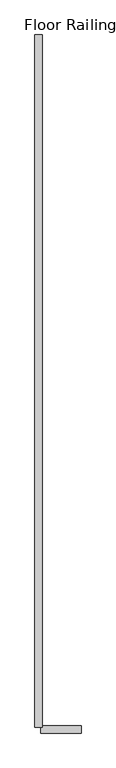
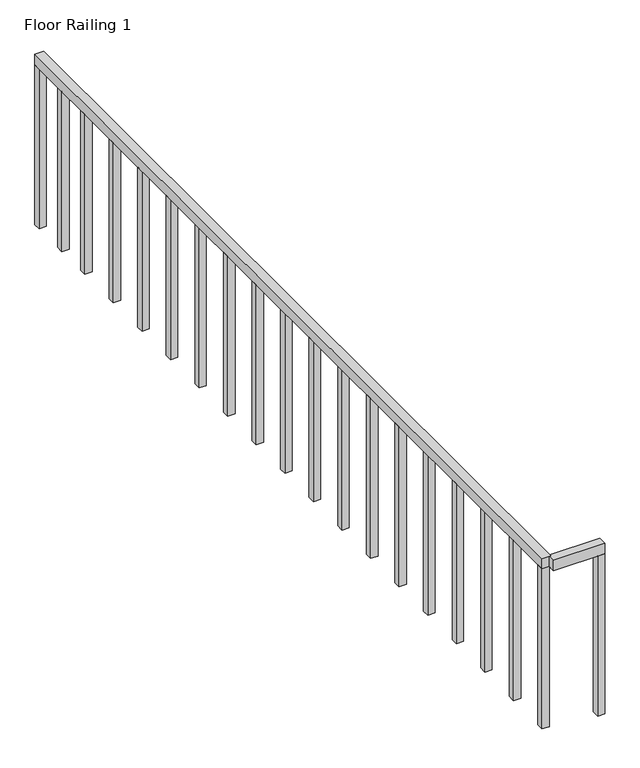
"""IFC4 building model written with IfcOpenShell, lengths in millimetres: railing geometry, Floor Railing 1."""

import ifcopenshell
import ifcopenshell.guid

model = None  # the IFC model being written
_history = None  # IfcOwnerHistory: only IFC2X3 demands one
_inside = {}  # id of a spatial element -> (the spatial element, [elements in it])
_under = {}  # id of a project, library or spatial element -> (it, [spatial elements below it])
_declared = {}  # id of a project -> (the project, [libraries it declares])
_typed = {}  # id of a type object -> (the type object, [elements of that type])
_made_of = {}  # id of a material, layer set ... -> (it, [elements and type objects made of it])


def new_model(schema):
    """Start an empty IFC model of exactly this schema.

    Asked for "IFC4X3", IfcOpenShell would pick the latest addendum, in which some entities
    have other attributes; the version numbers below select the first issue.
    IFC2X3 requires an IfcOwnerHistory on every rooted entity: one is made here for all.
    """
    global model, _history
    if schema == "IFC4X3":
        model = ifcopenshell.file(schema_version=(4, 3, 0, 0))
    else:
        model = ifcopenshell.file(schema=schema)
    _inside.clear()
    _under.clear()
    _declared.clear()
    _typed.clear()
    _made_of.clear()
    _history = None
    if model.schema == "IFC2X3":
        org = make("IfcOrganization", Name="unknown")
        user = make(
            "IfcPersonAndOrganization",
            ThePerson=make("IfcPerson", FamilyName="unknown"),
            TheOrganization=org,
        )
        app = make(
            "IfcApplication",
            ApplicationDeveloper=org,
            Version="unknown",
            ApplicationFullName="unknown",
            ApplicationIdentifier="unknown",
        )
        _history = make(
            "IfcOwnerHistory",
            OwningUser=user,
            OwningApplication=app,
            ChangeAction="ADDED",
            CreationDate=0,
        )
    return model


def make(cls, **values):
    """One entity of the class cls with the attributes given. An attribute that is None is left unset."""
    return model.create_entity(
        cls, **{name: value for name, value in values.items() if value is not None}
    )


def rooted(cls, **values):
    """An entity with a GlobalId (a new one), such as an element, a storey or a relation."""
    return make(cls, GlobalId=ifcopenshell.guid.new(), OwnerHistory=_history, **values)


def si_unit(unit_type, name, prefix=None):
    """IfcSIUnit, for example si_unit("LENGTHUNIT", "METRE", prefix="MILLI")."""
    return make("IfcSIUnit", UnitType=unit_type, Prefix=prefix, Name=name)


def assignment(units):
    """IfcUnitAssignment: the units of a project."""
    return None if units is None else make("IfcUnitAssignment", Units=units)


def point(xyz):
    """IfcCartesianPoint."""
    return None if xyz is None else make("IfcCartesianPoint", Coordinates=xyz)


def direction(xyz):
    """IfcDirection."""
    return None if xyz is None else make("IfcDirection", DirectionRatios=xyz)


def frame(location, z_axis=None, x_axis=None):
    """IfcAxis2Placement3D, a coordinate frame: its origin and axes. An axis left out is left unset."""
    return make(
        "IfcAxis2Placement3D",
        Location=point(location),
        Axis=direction(z_axis),
        RefDirection=direction(x_axis),
    )


def origin():
    """The frame at (0, 0, 0) with its axes left unset."""
    return frame((0.0, 0.0, 0.0))


def place(relative_to, where):
    """IfcLocalPlacement: puts the frame where relative to a parent placement (None: the world)."""
    return make(
        "IfcLocalPlacement", PlacementRelTo=relative_to, RelativePlacement=where
    )


def context(
    kind, dimensions, precision=None, world=None, true_north=None, identifier=None
):
    """IfcGeometricRepresentationContext, for example the 3D "Model" context."""
    return make(
        "IfcGeometricRepresentationContext",
        ContextIdentifier=identifier,
        ContextType=kind,
        CoordinateSpaceDimension=dimensions,
        Precision=precision,
        WorldCoordinateSystem=world,
        TrueNorth=true_north,
    )


def project(units=None, contexts=None):
    """IfcProject with its units and contexts."""
    return rooted(
        "IfcProject",
        Name="project",
        RepresentationContexts=contexts,
        UnitsInContext=assignment(units),
    )


def spatial(cls, under=None, at=None, **own):
    """A site, building, storey or space (cls), placed at a placement, below another one or the project."""
    s = rooted(cls, ObjectPlacement=at, **own)
    if under is not None:
        _under.setdefault(under.id(), (under, []))[1].append(s)
    return s


def polyline(points):
    """IfcPolyline through the points."""
    return make("IfcPolyline", Points=[point(p) for p in points])


def outline(outer, holes=None, kind="AREA"):
    """IfcArbitraryClosedProfileDef: a profile drawn as a closed curve; with holes, ...WithVoids."""
    if holes is None:
        return make("IfcArbitraryClosedProfileDef", ProfileType=kind, OuterCurve=outer)
    return make(
        "IfcArbitraryProfileDefWithVoids",
        ProfileType=kind,
        OuterCurve=outer,
        InnerCurves=holes,
    )


def extrude(swept, where, along, depth):
    """IfcExtrudedAreaSolid: the profile swept, set in the frame where, extruded along a direction by depth."""
    return make(
        "IfcExtrudedAreaSolid",
        SweptArea=swept,
        Position=where,
        ExtrudedDirection=direction(along),
        Depth=depth,
    )


def shape(context_of_items, identifier, shape_type, items):
    """IfcShapeRepresentation: the items that make up one representation, for example the "Body"."""
    return make(
        "IfcShapeRepresentation",
        ContextOfItems=context_of_items,
        RepresentationIdentifier=identifier,
        RepresentationType=shape_type,
        Items=items,
    )


def source(mapping_origin, context_of_items, identifier, shape_type, items):
    """IfcRepresentationMap: a shape defined once, which mapped items show again and again."""
    return make(
        "IfcRepresentationMap",
        MappingOrigin=mapping_origin,
        MappedRepresentation=shape(context_of_items, identifier, shape_type, items),
    )


def transform(
    local_origin,
    x_axis=None,
    y_axis=None,
    z_axis=None,
    scale=None,
    scale2=None,
    scale3=None,
    uniform=True,
):
    """IfcCartesianTransformationOperator3D, or its non-uniform kind. x_axis, y_axis, z_axis: its Axis1, 2, 3."""
    if uniform:
        return make(
            "IfcCartesianTransformationOperator3D",
            Axis1=direction(x_axis),
            Axis2=direction(y_axis),
            LocalOrigin=point(local_origin),
            Scale=scale,
            Axis3=direction(z_axis),
        )
    return make(
        "IfcCartesianTransformationOperator3DnonUniform",
        Axis1=direction(x_axis),
        Axis2=direction(y_axis),
        LocalOrigin=point(local_origin),
        Scale=scale,
        Axis3=direction(z_axis),
        Scale2=scale2,
        Scale3=scale3,
    )


def mapped(mapping_source, mapping_target):
    """IfcMappedItem: shows the shape of a source again, moved by a transform."""
    return make(
        "IfcMappedItem", MappingSource=mapping_source, MappingTarget=mapping_target
    )


def made_of(thing, what):
    """Note that an element or type object is made of a material, layer set ...; save() writes the relation."""
    if what is not None:
        _made_of.setdefault(what.id(), (what, []))[1].append(thing)
    return thing


def element(
    cls,
    number,
    at=None,
    inside=None,
    cuts=None,
    type_object=None,
    material=None,
    context=None,
    identifier="Body",
    shape_type=None,
    held_by="IfcProductDefinitionShape",
    body=None,
    shapes=None,
    **own,
):
    """One element of the class cls, such as IfcWall. Its Tag is "e" and its number.

    at: its placement. inside: the storey or other place that contains it. cuts: it is an
    opening in that element (IfcRelVoidsElement). A single representation is given by context,
    identifier, shape_type and body (its items); several are given by shapes. held_by: the class
    of the entity that holds the representations. save() writes the other relations.
    """
    e = rooted(cls, Tag="e%d" % number, ObjectPlacement=at, **own)
    if body is not None:
        shapes = [shape(context, identifier, shape_type, body)]
    if shapes is not None:
        e.Representation = make(held_by, Representations=shapes)
    if inside is not None:
        _inside.setdefault(inside.id(), (inside, []))[1].append(e)
    if cuts is not None:
        rooted(
            "IfcRelVoidsElement", RelatingBuildingElement=cuts, RelatedOpeningElement=e
        )
    if type_object is not None:
        _typed.setdefault(type_object.id(), (type_object, []))[1].append(e)
    return made_of(e, material)


def aggregate(whole, parts):
    """IfcRelAggregates: a whole, such as a stair, and the parts it consists of."""
    return rooted("IfcRelAggregates", RelatingObject=whole, RelatedObjects=parts)


def save(model, path):
    """Write the relations noted so far, then the file.

    IfcRelAggregates (storeys below a building ...), IfcRelContainedInSpatialStructure (elements
    in a storey), IfcRelDefinesByType, IfcRelAssociatesMaterial and IfcRelDeclares: one each for
    every whole, place, type object, material and project.
    """
    for whole, parts in _under.values():
        aggregate(whole, parts)
    for where, things in _inside.values():
        rooted(
            "IfcRelContainedInSpatialStructure",
            RelatedElements=things,
            RelatingStructure=where,
        )
    for kind, things in _typed.values():
        rooted("IfcRelDefinesByType", RelatedObjects=things, RelatingType=kind)
    for what, things in _made_of.values():
        rooted("IfcRelAssociatesMaterial", RelatedObjects=things, RelatingMaterial=what)
    for by, libraries in _declared.values():
        rooted("IfcRelDeclares", RelatingContext=by, RelatedDefinitions=libraries)
    model.write(path)


def floor_railing_1_846517ea(model_context):
    return source(origin(), model_context, "Body", "SweptSolid", [
        extrude(outline(polyline([(-5165.7911158, 51911.486508), (-5215.7911158, 51911.486508), (-5215.7911158, 56791.461508), (-5165.7911158, 56791.461508), (-5165.7911158, 51911.486508)])), frame((0.0, 0.0, 4244.8), z_axis=(0.0, 0.0, 1.0), x_axis=(1.0, 0.0, 0.0)), (0.0, 0.0, 1.0), 60.0),
        extrude(outline(polyline([(-5175.7911158, 56791.461508), (-5175.7911158, 56751.461508), (-5215.7911158, 56751.461508), (-5215.7911158, 56791.461508), (-5175.7911158, 56791.461508)])), frame((0.0, 0.0, 3304.8), z_axis=(0.0, 0.0, 1.0), x_axis=(1.0, 0.0, 0.0)), (0.0, 0.0, 1.0), 940.0),
        extrude(outline(polyline([(-5175.7911158, 56571.474008), (-5175.7911158, 56531.474008), (-5215.7911158, 56531.474008), (-5215.7911158, 56571.474008), (-5175.7911158, 56571.474008)])), frame((0.0, 0.0, 3304.8), z_axis=(0.0, 0.0, 1.0), x_axis=(1.0, 0.0, 0.0)), (0.0, 0.0, 1.0), 940.0),
        extrude(outline(polyline([(-5175.7911158, 56351.486508), (-5175.7911158, 56311.486508), (-5215.7911158, 56311.486508), (-5215.7911158, 56351.486508), (-5175.7911158, 56351.486508)])), frame((0.0, 0.0, 3304.8), z_axis=(0.0, 0.0, 1.0), x_axis=(1.0, 0.0, 0.0)), (0.0, 0.0, 1.0), 940.0),
        extrude(outline(polyline([(-5175.7911158, 56076.486508), (-5175.7911158, 56036.486508), (-5215.7911158, 56036.486508), (-5215.7911158, 56076.486508), (-5175.7911158, 56076.486508)])), frame((0.0, 0.0, 3304.8), z_axis=(0.0, 0.0, 1.0), x_axis=(1.0, 0.0, 0.0)), (0.0, 0.0, 1.0), 940.0),
        extrude(outline(polyline([(-5175.7911158, 55801.486508), (-5175.7911158, 55761.486508), (-5215.7911158, 55761.486508), (-5215.7911158, 55801.486508), (-5175.7911158, 55801.486508)])), frame((0.0, 0.0, 3304.8), z_axis=(0.0, 0.0, 1.0), x_axis=(1.0, 0.0, 0.0)), (0.0, 0.0, 1.0), 940.0),
        extrude(outline(polyline([(-5175.7911158, 55526.486508), (-5175.7911158, 55486.486508), (-5215.7911158, 55486.486508), (-5215.7911158, 55526.486508), (-5175.7911158, 55526.486508)])), frame((0.0, 0.0, 3304.8), z_axis=(0.0, 0.0, 1.0), x_axis=(1.0, 0.0, 0.0)), (0.0, 0.0, 1.0), 940.0),
        extrude(outline(polyline([(-5175.7911158, 55251.486508), (-5175.7911158, 55211.486508), (-5215.7911158, 55211.486508), (-5215.7911158, 55251.486508), (-5175.7911158, 55251.486508)])), frame((0.0, 0.0, 3304.8), z_axis=(0.0, 0.0, 1.0), x_axis=(1.0, 0.0, 0.0)), (0.0, 0.0, 1.0), 940.0),
        extrude(outline(polyline([(-5175.7911158, 54976.486508), (-5175.7911158, 54936.486508), (-5215.7911158, 54936.486508), (-5215.7911158, 54976.486508), (-5175.7911158, 54976.486508)])), frame((0.0, 0.0, 3304.8), z_axis=(0.0, 0.0, 1.0), x_axis=(1.0, 0.0, 0.0)), (0.0, 0.0, 1.0), 940.0),
        extrude(outline(polyline([(-5175.7911158, 54701.486508), (-5175.7911158, 54661.486508), (-5215.7911158, 54661.486508), (-5215.7911158, 54701.486508), (-5175.7911158, 54701.486508)])), frame((0.0, 0.0, 3304.8), z_axis=(0.0, 0.0, 1.0), x_axis=(1.0, 0.0, 0.0)), (0.0, 0.0, 1.0), 940.0),
        extrude(outline(polyline([(-5175.7911158, 54426.486508), (-5175.7911158, 54386.486508), (-5215.7911158, 54386.486508), (-5215.7911158, 54426.486508), (-5175.7911158, 54426.486508)])), frame((0.0, 0.0, 3304.8), z_axis=(0.0, 0.0, 1.0), x_axis=(1.0, 0.0, 0.0)), (0.0, 0.0, 1.0), 940.0),
        extrude(outline(polyline([(-5175.7911158, 54151.486508), (-5175.7911158, 54111.486508), (-5215.7911158, 54111.486508), (-5215.7911158, 54151.486508), (-5175.7911158, 54151.486508)])), frame((0.0, 0.0, 3304.8), z_axis=(0.0, 0.0, 1.0), x_axis=(1.0, 0.0, 0.0)), (0.0, 0.0, 1.0), 940.0),
        extrude(outline(polyline([(-5175.7911158, 53876.486508), (-5175.7911158, 53836.486508), (-5215.7911158, 53836.486508), (-5215.7911158, 53876.486508), (-5175.7911158, 53876.486508)])), frame((0.0, 0.0, 3304.8), z_axis=(0.0, 0.0, 1.0), x_axis=(1.0, 0.0, 0.0)), (0.0, 0.0, 1.0), 940.0),
        extrude(outline(polyline([(-5175.7911158, 53601.486508), (-5175.7911158, 53561.486508), (-5215.7911158, 53561.486508), (-5215.7911158, 53601.486508), (-5175.7911158, 53601.486508)])), frame((0.0, 0.0, 3304.8), z_axis=(0.0, 0.0, 1.0), x_axis=(1.0, 0.0, 0.0)), (0.0, 0.0, 1.0), 940.0),
        extrude(outline(polyline([(-5175.7911158, 53326.486508), (-5175.7911158, 53286.486508), (-5215.7911158, 53286.486508), (-5215.7911158, 53326.486508), (-5175.7911158, 53326.486508)])), frame((0.0, 0.0, 3304.8), z_axis=(0.0, 0.0, 1.0), x_axis=(1.0, 0.0, 0.0)), (0.0, 0.0, 1.0), 940.0),
        extrude(outline(polyline([(-5175.7911158, 53051.486508), (-5175.7911158, 53011.486508), (-5215.7911158, 53011.486508), (-5215.7911158, 53051.486508), (-5175.7911158, 53051.486508)])), frame((0.0, 0.0, 3304.8), z_axis=(0.0, 0.0, 1.0), x_axis=(1.0, 0.0, 0.0)), (0.0, 0.0, 1.0), 940.0),
        extrude(outline(polyline([(-5175.7911158, 52776.486508), (-5175.7911158, 52736.486508), (-5215.7911158, 52736.486508), (-5215.7911158, 52776.486508), (-5175.7911158, 52776.486508)])), frame((0.0, 0.0, 3304.8), z_axis=(0.0, 0.0, 1.0), x_axis=(1.0, 0.0, 0.0)), (0.0, 0.0, 1.0), 940.0),
        extrude(outline(polyline([(-5175.7911158, 52501.486508), (-5175.7911158, 52461.486508), (-5215.7911158, 52461.486508), (-5215.7911158, 52501.486508), (-5175.7911158, 52501.486508)])), frame((0.0, 0.0, 3304.8), z_axis=(0.0, 0.0, 1.0), x_axis=(1.0, 0.0, 0.0)), (0.0, 0.0, 1.0), 940.0),
        extrude(outline(polyline([(-5175.7911158, 52226.486508), (-5175.7911158, 52186.486508), (-5215.7911158, 52186.486508), (-5215.7911158, 52226.486508), (-5175.7911158, 52226.486508)])), frame((0.0, 0.0, 3304.8), z_axis=(0.0, 0.0, 1.0), x_axis=(1.0, 0.0, 0.0)), (0.0, 0.0, 1.0), 940.0),
        extrude(outline(polyline([(-5175.7911158, 51951.486508), (-5175.7911158, 51911.486508), (-5215.7911158, 51911.486508), (-5215.7911158, 51951.486508), (-5175.7911158, 51951.486508)])), frame((0.0, 0.0, 3304.8), z_axis=(0.0, 0.0, 1.0), x_axis=(1.0, 0.0, 0.0)), (0.0, 0.0, 1.0), 940.0),
        extrude(outline(polyline([(-4890.5747339, 51921.486508), (-4890.5747339, 51871.486508), (-5175.7911158, 51871.486508), (-5175.7911158, 51921.486508), (-4890.5747339, 51921.486508)])), frame((0.0, 0.0, 4244.8), z_axis=(0.0, 0.0, 1.0), x_axis=(1.0, 0.0, 0.0)), (0.0, 0.0, 1.0), 60.0),
        extrude(outline(polyline([(-4930.5747339, 51911.486508), (-4890.5747339, 51911.486508), (-4890.5747339, 51871.486508), (-4930.5747339, 51871.486508), (-4930.5747339, 51911.486508)])), frame((0.0, 0.0, 3304.8), z_axis=(0.0, 0.0, 1.0), x_axis=(1.0, 0.0, 0.0)), (0.0, 0.0, 1.0), 940.0),
    ])


if __name__ == "__main__":
    model = new_model("IFC4")
    model_context = context("Model", 3, world=origin())
    ifc_project = project(units=[si_unit("LENGTHUNIT", "METRE", prefix="MILLI")], contexts=[model_context])
    site = spatial("IfcSite", under=ifc_project)
    building = spatial("IfcBuilding", under=site)
    placement = place(None, origin())
    floor_railing_1_shape = floor_railing_1_846517ea(model_context)
    element("IfcRailing", 1, ObjectType="Floor Railing 1", at=placement, inside=building, context=model_context, shape_type="MappedRepresentation", body=[
        mapped(floor_railing_1_shape, transform((0.0, 0.0, 0.0), x_axis=(1.0, 0.0, 0.0), y_axis=(0.0, 1.0, 0.0), z_axis=(0.0, 0.0, 1.0))),
    ])
    save(model, "model.ifc")
